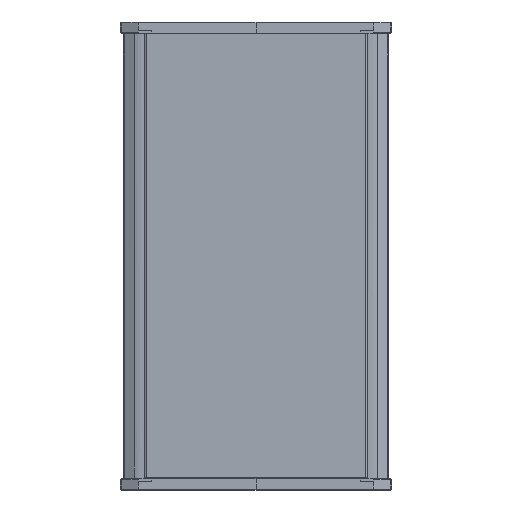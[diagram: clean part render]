
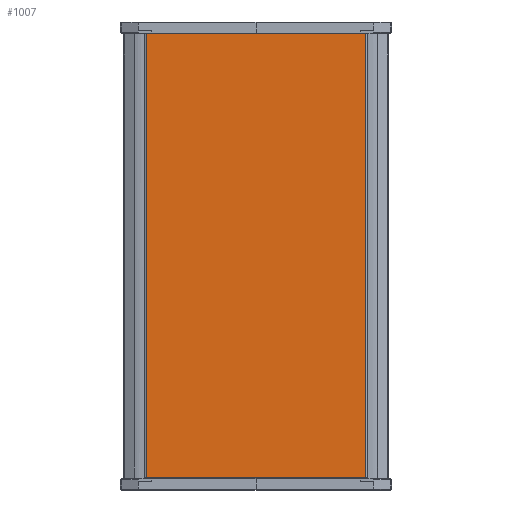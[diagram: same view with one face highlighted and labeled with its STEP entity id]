
A CAD part, front view. The second image highlights one B-rep face of the part: STEP entity #1007.
In plain terms, the highlighted planar face has unit normal (0, -1, 0).
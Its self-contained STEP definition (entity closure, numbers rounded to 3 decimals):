
#1007=ADVANCED_FACE('',(#1851),#11788,.T.);
#1851=FACE_OUTER_BOUND('',#2699,.T.);
#2699=EDGE_LOOP('',(#6468,#6469,#6470,#6471));
#6468=ORIENTED_EDGE('',*,*,#8400,.F.);
#6469=ORIENTED_EDGE('',*,*,#8399,.F.);
#6470=ORIENTED_EDGE('',*,*,#8398,.T.);
#6471=ORIENTED_EDGE('',*,*,#8382,.T.);
#8382=EDGE_CURVE('',#11396,#11397,#9753,.T.);
#8398=EDGE_CURVE('',#11408,#11396,#9765,.T.);
#8399=EDGE_CURVE('',#11408,#11409,#9766,.T.);
#8400=EDGE_CURVE('',#11409,#11397,#9767,.T.);
#9753=B_SPLINE_CURVE_WITH_KNOTS('',1,(#27137,#27138),.UNSPECIFIED.,.F.,
 .F.,(2,2),(167.342,461.342),.UNSPECIFIED.);
#9765=B_SPLINE_CURVE_WITH_KNOTS('',1,(#27173,#27174),.UNSPECIFIED.,.F.,
 .F.,(2,2),(-593.5,0.),.UNSPECIFIED.);
#9766=B_SPLINE_CURVE_WITH_KNOTS('',1,(#27175,#27176),.UNSPECIFIED.,.F.,
 .F.,(2,2),(167.342,461.342),.UNSPECIFIED.);
#9767=B_SPLINE_CURVE_WITH_KNOTS('',1,(#27177,#27178),.UNSPECIFIED.,.F.,
 .F.,(2,2),(-593.5,0.),.UNSPECIFIED.);
#11396=VERTEX_POINT('',#27108);
#11397=VERTEX_POINT('',#27109);
#11408=VERTEX_POINT('',#27120);
#11409=VERTEX_POINT('',#27121);
#11788=PLANE('',#12610);
#12610=AXIS2_PLACEMENT_3D('',#27080,#12991,$);
#12991=DIRECTION('',(0.,-1.,0.));
#27080=CARTESIAN_POINT('',(1375.658,41.134,620.5));
#27108=CARTESIAN_POINT('',(1669.658,41.134,620.5));
#27109=CARTESIAN_POINT('',(1375.658,41.134,620.5));
#27120=CARTESIAN_POINT('',(1669.658,41.134,27.));
#27121=CARTESIAN_POINT('',(1375.658,41.134,27.));
#27137=CARTESIAN_POINT('',(1669.658,41.134,620.5));
#27138=CARTESIAN_POINT('',(1375.658,41.134,620.5));
#27173=CARTESIAN_POINT('',(1669.658,41.134,27.));
#27174=CARTESIAN_POINT('',(1669.658,41.134,620.5));
#27175=CARTESIAN_POINT('',(1669.658,41.134,27.));
#27176=CARTESIAN_POINT('',(1375.658,41.134,27.));
#27177=CARTESIAN_POINT('',(1375.658,41.134,27.));
#27178=CARTESIAN_POINT('',(1375.658,41.134,620.5));
